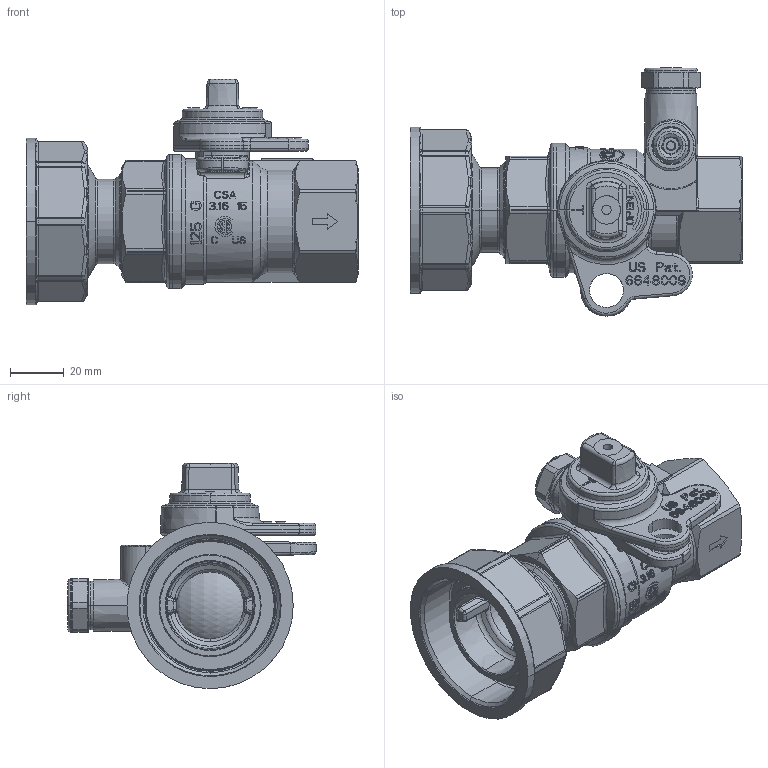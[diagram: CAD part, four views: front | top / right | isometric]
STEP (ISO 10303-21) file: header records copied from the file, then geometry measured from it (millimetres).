
FILE_DESCRIPTION(('Open CASCADE Model'),'2;1');
FILE_NAME('Open CASCADE Shape Model','2021-11-30T16:47:40',('Author'),( 'Open CASCADE'),'Open CASCADE STEP processor 7.3','Open CASCADE 7.3' ,'Unknown');
FILE_SCHEMA(('AUTOMOTIVE_DESIGN { 1 0 10303 214 1 1 1 1 }'));
Length unit declared in the file: millimetre
Products named in the file (39): Open CASCADE STEP translator 7.3 1; Open CASCADE STEP translator 7.3 1.1; Open CASCADE STEP translator 7.3 1.2; Open CASCADE STEP translator 7.3 1.3; Open CASCADE STEP translator 7.3 1.4; Open CASCADE STEP translator 7.3 1.5; Open CASCADE STEP translator 7.3 1.6; Open CASCADE STEP translator 7.3 1.7; Open CASCADE STEP translator 7.3 1.8; Open CASCADE STEP translator 7.3 1.9; Open CASCADE STEP translator 7.3 1.10; Open CASCADE STEP translator 7.3 1.11; Open CASCADE STEP translator 7.3 1.12; Open CASCADE STEP translator 7.3 1.13; Open CASCADE STEP translator 7.3 1.14; Open CASCADE STEP translator 7.3 1.15; Open CASCADE STEP translator 7.3 1.16; Open CASCADE STEP translator 7.3 1.17; Open CASCADE STEP translator 7.3 1.18; Open CASCADE STEP translator 7.3 1.19; Open CASCADE STEP translator 7.3 1.20; Open CASCADE STEP translator 7.3 1.21; Open CASCADE STEP translator 7.3 1.22; Open CASCADE STEP translator 7.3 1.23; Open CASCADE STEP translator 7.3 1.24; Open CASCADE STEP translator 7.3 1.25; Open CASCADE STEP translator 7.3 1.26; Open CASCADE STEP translator 7.3 1.27; Open CASCADE STEP translator 7.3 1.28; Open CASCADE STEP translator 7.3 1.29; Open CASCADE STEP translator 7.3 1.30; Open CASCADE STEP translator 7.3 1.31; Open CASCADE STEP translator 7.3 1.32; Open CASCADE STEP translator 7.3 1.33; Open CASCADE STEP translator 7.3 1.34; Open CASCADE STEP translator 7.3 1.35; Open CASCADE STEP translator 7.3 1.36; Open CASCADE STEP translator 7.3 1.37; Open CASCADE STEP translator 7.3 1.38
Assembly tree (38 placements, depth 2):
  Open CASCADE STEP translator 7.3 1
    Open CASCADE STEP translator 7.3 1.1
    Open CASCADE STEP translator 7.3 1.2
    Open CASCADE STEP translator 7.3 1.3
    Open CASCADE STEP translator 7.3 1.4
    Open CASCADE STEP translator 7.3 1.5
    Open CASCADE STEP translator 7.3 1.6
    Open CASCADE STEP translator 7.3 1.7
    Open CASCADE STEP translator 7.3 1.8
    Open CASCADE STEP translator 7.3 1.9
    Open CASCADE STEP translator 7.3 1.10
    Open CASCADE STEP translator 7.3 1.11
    Open CASCADE STEP translator 7.3 1.12
    Open CASCADE STEP translator 7.3 1.13
    Open CASCADE STEP translator 7.3 1.14
    Open CASCADE STEP translator 7.3 1.15
    Open CASCADE STEP translator 7.3 1.16
    Open CASCADE STEP translator 7.3 1.17
    Open CASCADE STEP translator 7.3 1.18
    Open CASCADE STEP translator 7.3 1.19
    Open CASCADE STEP translator 7.3 1.20
    Open CASCADE STEP translator 7.3 1.21
    Open CASCADE STEP translator 7.3 1.22
    Open CASCADE STEP translator 7.3 1.23
    Open CASCADE STEP translator 7.3 1.24
    Open CASCADE STEP translator 7.3 1.25
    Open CASCADE STEP translator 7.3 1.26
    Open CASCADE STEP translator 7.3 1.27
    Open CASCADE STEP translator 7.3 1.28
    Open CASCADE STEP translator 7.3 1.29
    Open CASCADE STEP translator 7.3 1.30
    Open CASCADE STEP translator 7.3 1.31
    Open CASCADE STEP translator 7.3 1.32
    Open CASCADE STEP translator 7.3 1.33
    Open CASCADE STEP translator 7.3 1.34
    Open CASCADE STEP translator 7.3 1.35
    Open CASCADE STEP translator 7.3 1.36
    Open CASCADE STEP translator 7.3 1.37
    Open CASCADE STEP translator 7.3 1.38
Bounding box: 123.8 x 92.5 x 84 mm (x, y, z)
Volume: 176580.3 mm3; surface area: 99462.5 mm2
Topology: 20 solids, 38 shells, 2644 faces, 6888 edges, 4389 vertices
Faces by surface type: plane 1260, cylinder 368, extrusion 342, bspline 235, cone 202, torus 182, sphere 39, revolution 16
Entity records: 221584 total; most frequent: CARTESIAN_POINT 93688, DIRECTION 20213, ORIENTED_EDGE 13664, PCURVE 13664, DEFINITIONAL_REPRESENTATION 13664, VECTOR 12637, LINE 12295, EDGE_CURVE 6880
